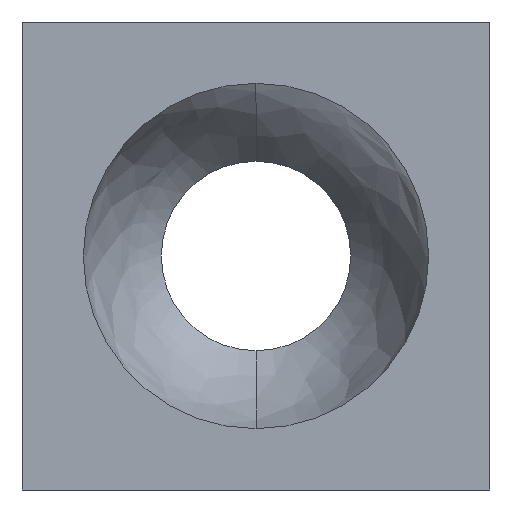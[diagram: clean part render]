
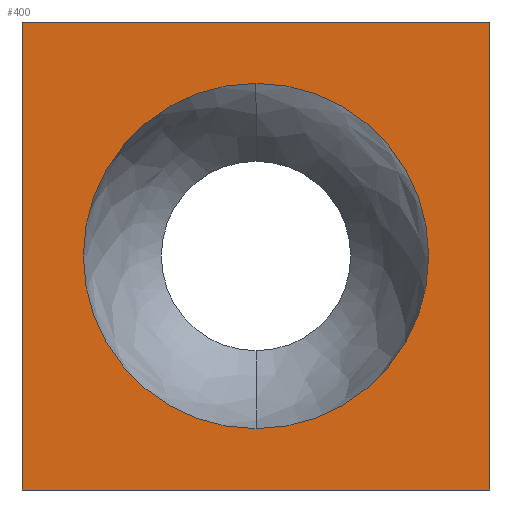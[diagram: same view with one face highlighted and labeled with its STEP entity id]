
A CAD part, front view. The second image highlights one B-rep face of the part: STEP entity #400.
In plain terms, the highlighted planar face has unit normal (0, -1, 0).
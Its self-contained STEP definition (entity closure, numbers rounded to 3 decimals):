
#20 = AXIS2_PLACEMENT_3D ( 'NONE', #1398, #1253, #230 ) ;
#58 = VECTOR ( 'NONE', #326, 1000. ) ;
#64 = EDGE_CURVE ( 'NONE', #1293, #228, #762, .T. ) ;
#68 = DIRECTION ( 'NONE',  ( 0., -1., 0. ) ) ;
#189 = CARTESIAN_POINT ( 'NONE',  ( 10.5, -9.5, 10.5 ) ) ;
#228 = VERTEX_POINT ( 'NONE', #252 ) ;
#230 = DIRECTION ( 'NONE',  ( 0., 0., 1. ) ) ;
#252 = CARTESIAN_POINT ( 'NONE',  ( 10.5, -9.5, -10.5 ) ) ;
#262 = AXIS2_PLACEMENT_3D ( 'NONE', #385, #512, #1419 ) ;
#291 = LINE ( 'NONE', #1376, #937 ) ;
#320 = LINE ( 'NONE', #375, #381 ) ;
#326 = DIRECTION ( 'NONE',  ( 0., 0., -1. ) ) ;
#331 = DIRECTION ( 'NONE',  ( 0., 0., -1. ) ) ;
#341 = LINE ( 'NONE', #971, #1340 ) ;
#375 = CARTESIAN_POINT ( 'NONE',  ( -10.5, -9.5, 10.5 ) ) ;
#381 = VECTOR ( 'NONE', #488, 1000. ) ;
#385 = CARTESIAN_POINT ( 'NONE',  ( 0., -9.5, 0. ) ) ;
#393 = EDGE_LOOP ( 'NONE', ( #1348, #1044, #1537, #1450 ) ) ;
#400 = ADVANCED_FACE ( 'NONE', ( #566, #1572 ), #706, .T. ) ;
#445 = EDGE_CURVE ( 'NONE', #1426, #851, #291, .T. ) ;
#488 = DIRECTION ( 'NONE',  ( 1., 0., 0. ) ) ;
#512 = DIRECTION ( 'NONE',  ( 0., 1., 0. ) ) ;
#563 = EDGE_CURVE ( 'NONE', #228, #1426, #341, .T. ) ;
#566 = FACE_BOUND ( 'NONE', #1163, .T. ) ;
#706 = PLANE ( 'NONE',  #790 ) ;
#762 = LINE ( 'NONE', #189, #58 ) ;
#765 = CARTESIAN_POINT ( 'NONE',  ( 0., -9.5, -7.75 ) ) ;
#790 = AXIS2_PLACEMENT_3D ( 'NONE', #1476, #68, #331 ) ;
#851 = VERTEX_POINT ( 'NONE', #865 ) ;
#865 = CARTESIAN_POINT ( 'NONE',  ( -10.5, -9.5, 10.5 ) ) ;
#937 = VECTOR ( 'NONE', #1105, 1000. ) ;
#971 = CARTESIAN_POINT ( 'NONE',  ( -10.5, -9.5, -10.5 ) ) ;
#977 = EDGE_CURVE ( 'NONE', #1449, #1123, #1228, .T. ) ;
#1029 = ORIENTED_EDGE ( 'NONE', *, *, #1154, .T. ) ;
#1044 = ORIENTED_EDGE ( 'NONE', *, *, #1543, .F. ) ;
#1105 = DIRECTION ( 'NONE',  ( 0., 0., 1. ) ) ;
#1123 = VERTEX_POINT ( 'NONE', #1431 ) ;
#1149 = CIRCLE ( 'NONE', #262, 7.75 ) ;
#1154 = EDGE_CURVE ( 'NONE', #1123, #1449, #1149, .T. ) ;
#1163 = EDGE_LOOP ( 'NONE', ( #1387, #1029 ) ) ;
#1228 = CIRCLE ( 'NONE', #20, 7.75 ) ;
#1253 = DIRECTION ( 'NONE',  ( 0., 1., 0. ) ) ;
#1257 = CARTESIAN_POINT ( 'NONE',  ( -10.5, -9.5, -10.5 ) ) ;
#1293 = VERTEX_POINT ( 'NONE', #1583 ) ;
#1340 = VECTOR ( 'NONE', #1466, 1000. ) ;
#1348 = ORIENTED_EDGE ( 'NONE', *, *, #64, .F. ) ;
#1376 = CARTESIAN_POINT ( 'NONE',  ( -10.5, -9.5, 10.5 ) ) ;
#1387 = ORIENTED_EDGE ( 'NONE', *, *, #977, .T. ) ;
#1398 = CARTESIAN_POINT ( 'NONE',  ( 0., -9.5, 0. ) ) ;
#1419 = DIRECTION ( 'NONE',  ( 0., 0., 1. ) ) ;
#1426 = VERTEX_POINT ( 'NONE', #1257 ) ;
#1431 = CARTESIAN_POINT ( 'NONE',  ( 0., -9.5, 7.75 ) ) ;
#1449 = VERTEX_POINT ( 'NONE', #765 ) ;
#1450 = ORIENTED_EDGE ( 'NONE', *, *, #563, .F. ) ;
#1466 = DIRECTION ( 'NONE',  ( -1., 0., 0. ) ) ;
#1476 = CARTESIAN_POINT ( 'NONE',  ( 0., -9.5, 0. ) ) ;
#1537 = ORIENTED_EDGE ( 'NONE', *, *, #445, .F. ) ;
#1543 = EDGE_CURVE ( 'NONE', #851, #1293, #320, .T. ) ;
#1572 = FACE_OUTER_BOUND ( 'NONE', #393, .T. ) ;
#1583 = CARTESIAN_POINT ( 'NONE',  ( 10.5, -9.5, 10.5 ) ) ;
